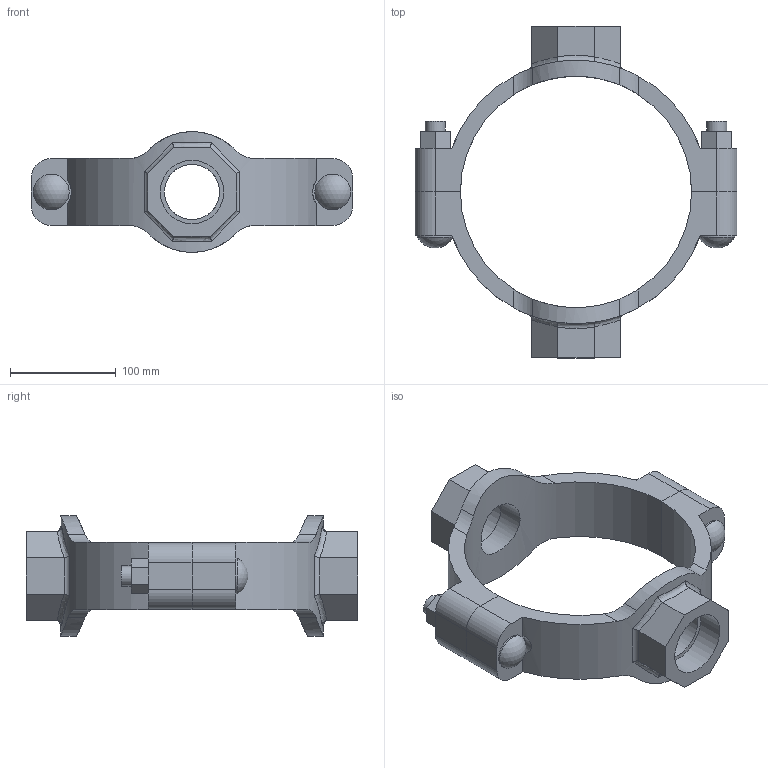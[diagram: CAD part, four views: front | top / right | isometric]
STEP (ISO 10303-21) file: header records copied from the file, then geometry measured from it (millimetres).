
FILE_DESCRIPTION(/* description */ ('VIC MECH-T BRANCH OUTLET CROSS STYLE 920N (THD)','CAx-IF Rec.Pracs.---Representation and Presentation of Product Manufacturing Information (PMI)---4.0---2014-10-13'),/* implementation_level */ '2;1');
FILE_NAME(/* name */ 'C:\Users\Vjadhav\AppData\Roaming\Autodesk\ApplicationPlugins\Back Up\Victaulic_IPS_Mechanical-Cross Outlet_Style 920N (FPT)\Victaulic_IPS_Mechanical-Cross Outlet_08.0x02.0x02.0 (200x50x50).stp',/* time_stamp */ '2020-08-06T19:00:44+06:00',/* author */ ('Vjadhav'),/* organization */ ('Victaulic'),/* preprocessor_version */ 'ST-DEVELOPER v17.2',/* originating_system */ 'Autodesk Inventor 2019',/* authorisation */ '');
FILE_SCHEMA (('AP242_MANAGED_MODEL_BASED_3D_ENGINEERING_MIM_LF { 1 0 10303 442 1 1 4 }'));
Length unit declared in the file: inch
Products named in the file (3): 920NT-08.0x02.0x02.0; 920T-08.0x02.0; 920T-08.0x02.0_1
Assembly tree (2 placements, depth 2):
  920NT-08.0x02.0x02.0
    920T-08.0x02.0
    920T-08.0x02.0_1
Bounding box: 304.8 x 314.45 x 114.3 mm (x, y, z)
Volume: 1263772.8 mm3; surface area: 213840.2 mm2
Topology: 2 solids, 2 shells, 132 faces, 350 edges, 236 vertices
Faces by surface type: plane 68, cylinder 50, bspline 8, torus 4, sphere 2
Full cylindrical faces by diameter (mm): 19.05 x4, 33.843 x2, 52.387 x2, 60.325 x2
Entity records: 5173 total; most frequent: CARTESIAN_POINT 1660, ORIENTED_EDGE 700, DIRECTION 648, EDGE_CURVE 350, VERTEX_POINT 236, AXIS2_PLACEMENT_3D 231, LINE 186, VECTOR 186
